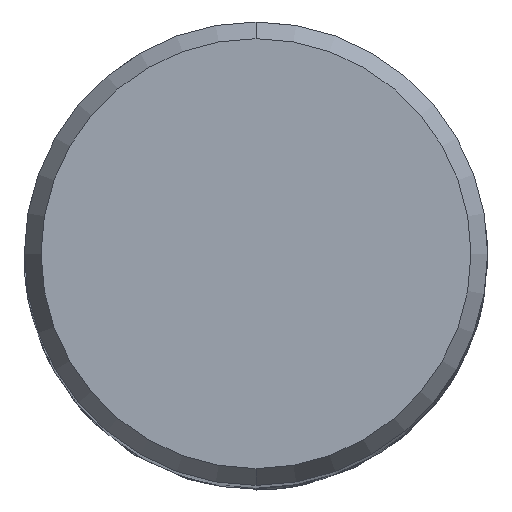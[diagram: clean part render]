
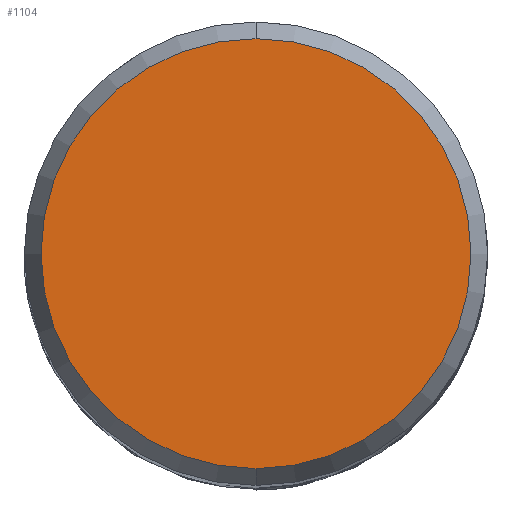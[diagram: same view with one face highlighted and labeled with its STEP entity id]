
A CAD part, top view. The second image highlights one B-rep face of the part: STEP entity #1104.
In plain terms, the highlighted planar face has unit normal (0, 0, 1).
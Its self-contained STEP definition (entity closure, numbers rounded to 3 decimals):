
#1032=EDGE_CURVE('',#1874,#1174,#2451,.T.);
#1104=ADVANCED_FACE('',(#2531),#2532,.T.);
#1174=VERTEX_POINT('',#2612);
#1462=EDGE_CURVE('',#1174,#1874,#2921,.T.);
#1874=VERTEX_POINT('',#3367);
#2451=CIRCLE('',#7134,7.423);
#2531=FACE_OUTER_BOUND('',#8333,.T.);
#2532=PLANE('',#8334);
#2612=CARTESIAN_POINT('',(0.0,7.423,0.0));
#2921=CIRCLE('',#12409,7.423);
#3367=CARTESIAN_POINT('',(0.,-7.423,0.0));
#7134=AXIS2_PLACEMENT_3D('',#20895,#20896,#20897);
#8333=EDGE_LOOP('',(#20958,#20959));
#8334=AXIS2_PLACEMENT_3D('',#20960,#20961,#20962);
#12409=AXIS2_PLACEMENT_3D('',#21329,#21330,#21331);
#20895=CARTESIAN_POINT('',(0.0,0.0,0.0));
#20896=DIRECTION('',(0.0,0.0,-1.0));
#20897=DIRECTION('',(0.0,1.0,0.0));
#20958=ORIENTED_EDGE('',*,*,#1462,.F.);
#20959=ORIENTED_EDGE('',*,*,#1032,.F.);
#20960=CARTESIAN_POINT('',(0.0,3.711,0.0));
#20961=DIRECTION('',(-0.0,0.0,1.0));
#20962=DIRECTION('',(0.0,-1.0,0.0));
#21329=CARTESIAN_POINT('',(0.0,0.0,0.0));
#21330=DIRECTION('',(0.0,0.0,-1.0));
#21331=DIRECTION('',(0.0,1.0,0.0));
